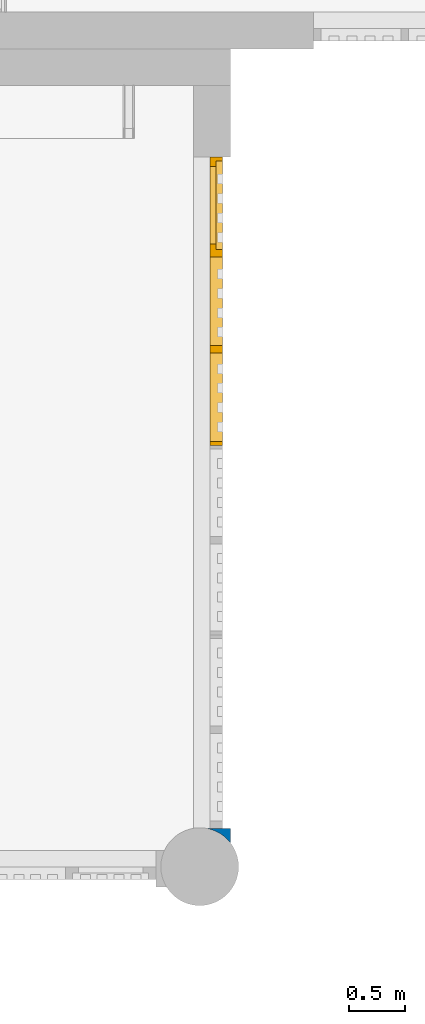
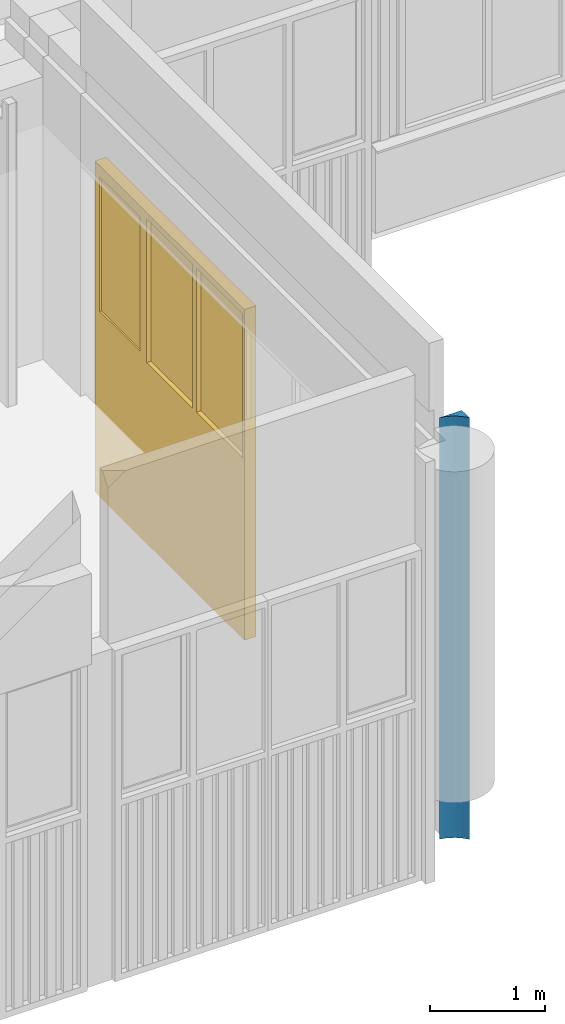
# One storey, part 55 of 117: 1 wall, 1 window, 3 openings.
"""IFC2X3 building model written with IfcOpenShell, lengths in millimetres."""

from ifc_helpers import new_model, entity, si_unit, converted_unit, derived_unit, money_unit, direction, frame, origin_with_axes, place, context, subcontext, project, spatial, open_shell, faceted_brep, surface_model, material, type_object, element, fill, save


model = new_model("IFC2X3")

# Units and contexts
model_context = context("Model", 3, precision=0.01, world=origin_with_axes(), true_north=direction((0.0, 1.0)))
body_context = subcontext(model_context, "Body", "Model", "MODEL_VIEW")
ifc_project = project(units=[si_unit("LENGTHUNIT", "METRE", prefix="MILLI"), si_unit("AREAUNIT", "SQUARE_METRE"), si_unit("VOLUMEUNIT", "CUBIC_METRE"), converted_unit("PLANEANGLEUNIT", "DEGREE", entity("IfcPlaneAngleMeasure", 0.0174532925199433), si_unit("PLANEANGLEUNIT", "RADIAN"), dimensions=[0, 0, 0, 0, 0, 0, 0]), money_unit("EUR"), converted_unit("TIMEUNIT", "Year", entity("IfcTimeMeasure", 31557600.0), si_unit("TIMEUNIT", "SECOND"), dimensions=[0, 0, 1, 0, 0, 0, 0]), si_unit("MASSUNIT", "GRAM", prefix="KILO"), si_unit("THERMODYNAMICTEMPERATUREUNIT", "DEGREE_CELSIUS"), si_unit("LUMINOUSINTENSITYUNIT", "LUMEN"), si_unit("ENERGYUNIT", "JOULE", prefix="MEGA"), derived_unit("THERMALCONDUCTANCEUNIT", [(si_unit("POWERUNIT", "WATT"), 1), (si_unit("LENGTHUNIT", "METRE"), -1), (si_unit("THERMODYNAMICTEMPERATUREUNIT", "KELVIN"), -1)]), derived_unit("SPECIFICHEATCAPACITYUNIT", [(si_unit("ENERGYUNIT", "JOULE"), 1), (si_unit("MASSUNIT", "GRAM", prefix="KILO"), -1), (si_unit("THERMODYNAMICTEMPERATUREUNIT", "KELVIN"), -1)]), derived_unit("MASSDENSITYUNIT", [(si_unit("MASSUNIT", "GRAM", prefix="KILO"), 1), (si_unit("VOLUMEUNIT", "CUBIC_METRE"), -1)])], contexts=[model_context])

# Site, building, storey
site_placement = place(None, origin_with_axes())
site = spatial("IfcSite", under=ifc_project, at=site_placement, Name="Site", CompositionType="ELEMENT")
building_placement = place(site_placement, origin_with_axes())
building = spatial("IfcBuilding", under=site, at=building_placement, Name="Naam gebouw", CompositionType="ELEMENT")
storey_placement = place(building_placement, frame((0.0, 0.0, 4150.0), z_axis=(0.0, 0.0, 1.0), x_axis=(1.0, 0.0, 0.0)))
storey = spatial("IfcBuildingStorey", under=building, at=storey_placement, Name="1e verdieping N", CompositionType="ELEMENT", Elevation=4150.0)

# Wall, openings, window
ifc_material = material(Name="ALG - CONSTRUCTIEF")
wall_type = type_object("IfcWallType", Name="ALG - CONSTRUCTIEF 330", PredefinedType="NOTDEFINED")
wall_placement = place(storey_placement, frame((32345.47026007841, 9677.805369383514, -1060.000000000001), z_axis=(0.0, 0.0, 1.0), x_axis=(0.0, -1.0, 0.0)))
wall = element("IfcWall", 1, at=wall_placement, inside=storey, type_object=wall_type, material=ifc_material, Name="_Wand-x", context=body_context, shape_type="Brep", body=[
    faceted_brep([(6031.855679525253, 1.449080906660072, 0.0), (6031.855679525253, 1.449080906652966, 760.0000000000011), (6032.170907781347, 0.0, 760.0000000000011), (6032.170907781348, 0.0, 0.0), (6031.855679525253, 0.0, 760.0000000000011), (6031.855679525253, 0.0, 0.0)], [[[0, 1, 2, 3]], [[4, 1, 0, 5]], [[1, 4, 2]], [[4, 5, 3, 2]], [[5, 0, 3]]]),
    faceted_brep([(6031.855679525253, 1.449080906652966, 1060.000000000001), (6031.855679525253, 1.449080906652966, 4260.0), (6032.170907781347, 0.0, 4260.0), (6032.170907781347, 0.0, 1060.000000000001), (6031.855679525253, 0.0, 4260.0), (6031.855679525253, 0.0, 1060.000000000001)], [[[0, 1, 2, 3]], [[4, 1, 0, 5]], [[1, 4, 2]], [[4, 5, 3, 2]], [[5, 0, 3]]]),
    faceted_brep([(6031.855679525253, 259.999999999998, 0.0), (6031.855679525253, 107.610398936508, 0.0), (6031.855679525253, 107.610398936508, 4460.000000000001), (6031.855679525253, 259.999999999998, 4460.000000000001), (6031.855679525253, 329.9999999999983, 4460.000000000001), (6031.855679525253, 329.9999999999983, 0.0), (6163.018533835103, 329.9999999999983, 0.0), (6148.380481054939, 319.0420909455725, 0.0), (6113.069386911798, 283.7309968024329, 0.0), (6083.143001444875, 243.7540260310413, 0.0), (6059.210539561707, 199.9249944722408, 0.0), (6041.759197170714, 153.1361348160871, 0.0), (6041.759197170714, 153.1361348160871, 4460.000000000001), (6059.210539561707, 199.9249944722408, 4460.000000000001), (6083.143001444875, 243.7540260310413, 4460.000000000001), (6113.069386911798, 283.7309968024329, 4460.000000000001), (6148.380481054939, 319.0420909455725, 4460.000000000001), (6163.018533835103, 329.9999999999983, 4460.000000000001)], [[[0, 1, 2, 3, 4, 5]], [[1, 0, 5, 6, 7, 8, 9, 10, 11]], [[2, 1, 11, 12]], [[3, 2, 12, 13, 14, 15, 16, 17, 4]], [[4, 17, 6, 5]], [[7, 6, 17, 16]], [[7, 16, 15, 8]], [[8, 15, 14, 9]], [[9, 14, 13, 10]], [[10, 13, 12, 11]]]),
])
opening_1_placement = place(wall_placement, frame((3438.498536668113, 0.0, 0.0), z_axis=(0.0, 0.0, 1.0), x_axis=(1.0, 0.0, 0.0)))
element("IfcOpeningElement", 2, at=opening_1_placement, cuts=wall, Name="_Merk-042", context=body_context, shape_type="Brep", body=[
    faceted_brep([(-853.2857142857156, 259.999999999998, 0.0), (-853.2857142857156, 259.999999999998, 4500.0), (-853.2857142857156, 330.999999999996, 4500.0), (-853.2857142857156, 330.999999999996, 0.0), (-853.2857142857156, -0.9999999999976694, 0.0), (-853.2857142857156, -0.9999999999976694, 4500.0), (853.2857142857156, 259.999999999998, 4500.0), (853.2857142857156, 330.999999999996, 4500.0), (853.2857142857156, -0.9999999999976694, 4500.0), (853.2857142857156, 330.999999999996, 0.0), (853.2857142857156, 259.999999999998, 0.0), (853.2857142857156, -0.9999999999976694, 0.0)], [[[0, 1, 2, 3]], [[1, 0, 4, 5]], [[6, 7, 2, 1, 5, 8]], [[7, 9, 3, 2]], [[0, 3, 9, 10, 11, 4]], [[5, 4, 11, 8]], [[6, 10, 9, 7]], [[10, 6, 8, 11]]]),
])
opening_2_placement = place(wall_placement, frame((5161.819965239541, 0.0, 0.0), z_axis=(0.0, 0.0, 1.0), x_axis=(1.0, 0.0, 0.0)))
element("IfcOpeningElement", 3, at=opening_2_placement, cuts=wall, Name="_Merk-042", context=body_context, shape_type="Brep", body=[
    faceted_brep([(-870.0357142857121, 259.999999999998, 0.0), (-870.0357142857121, 259.999999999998, 4500.0), (-870.0357142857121, 330.999999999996, 4500.0), (-870.0357142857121, 330.999999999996, 0.0), (-870.0357142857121, -0.9999999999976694, 0.0), (-870.0357142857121, -0.9999999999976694, 4500.0), (870.0357142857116, 259.999999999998, 4500.0), (870.0357142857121, 330.999999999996, 4500.0), (870.0357142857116, -0.9999999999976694, 4500.0), (870.0357142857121, 330.999999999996, 0.0), (870.0357142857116, 259.999999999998, 0.0), (870.0357142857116, -0.9999999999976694, 0.0)], [[[0, 1, 2, 3]], [[1, 0, 4, 5]], [[6, 7, 2, 1, 5, 8]], [[7, 9, 3, 2]], [[0, 3, 9, 10, 11, 4]], [[5, 4, 11, 8]], [[6, 10, 9, 7]], [[10, 6, 8, 11]]]),
])
opening_3_placement = place(wall_placement, frame((1288.534250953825, 0.0, 0.0), z_axis=(0.0, 0.0, 1.0), x_axis=(1.0, 0.0, 0.0)))
opening_3 = element("IfcOpeningElement", 4, at=opening_3_placement, cuts=wall, Name="_Merk-041", context=body_context, shape_type="Brep", body=[
    faceted_brep([(-1296.678571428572, 259.999999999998, 0.0), (-1296.678571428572, 259.999999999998, 4499.999999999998), (-1296.678571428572, 330.999999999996, 4499.999999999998), (-1296.678571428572, 330.999999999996, 0.0), (-1296.678571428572, -0.9999999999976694, 0.0), (-1296.678571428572, -0.9999999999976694, 4499.999999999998), (1296.678571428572, 259.999999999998, 4499.999999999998), (1296.678571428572, 330.999999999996, 4499.999999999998), (1296.678571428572, -0.9999999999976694, 4499.999999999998), (1296.678571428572, 330.999999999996, 0.0), (1296.678571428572, 259.999999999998, 0.0), (1296.678571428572, -0.9999999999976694, 0.0)], [[[0, 1, 2, 3]], [[1, 0, 4, 5]], [[6, 7, 2, 1, 5, 8]], [[7, 9, 3, 2]], [[0, 3, 9, 10, 11, 4]], [[5, 4, 11, 8]], [[6, 10, 9, 7]], [[10, 6, 8, 11]]]),
])
window_style = type_object("IfcWindowStyle", Name="R3 bl ol 26", ConstructionType="NOTDEFINED", OperationType="USERDEFINED", ParameterTakesPrecedence=False, Sizeable=False)
window_placement = place(opening_3_placement, frame((1296.678571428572, 0.0, 0.0), z_axis=(0.0, 0.0, 1.0), x_axis=(-1.0, 0.0, 0.0)))
window = element("IfcWindow", 5, at=window_placement, inside=storey, type_object=window_style, Name="_Merk-041", ObjectType="WINDOW", OverallHeight=3500.0, OverallWidth=2593.36, context=body_context, shape_type="SurfaceModel", body=[
    faceted_brep([(2559.857142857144, -200.0000000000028, 3432.999999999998), (2559.857142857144, -260.0000000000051, 3432.999999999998), (2593.357142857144, -260.0000000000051, 3432.999999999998), (2593.357142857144, -146.0000000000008, 3432.999999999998), (2576.857142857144, -146.0000000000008, 3432.999999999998), (2576.857142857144, -200.0000000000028, 3432.999999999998), (2559.857142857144, -200.0000000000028, 1910.000000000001), (2559.857142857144, -259.999999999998, 1910.000000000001), (2593.357142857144, -259.999999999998, 66.9999999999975), (2559.857142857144, -259.999999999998, 1843.000000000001), (2559.857142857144, -259.999999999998, 66.9999999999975), (2593.357142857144, -146.0000000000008, 66.9999999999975), (2576.857142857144, -146.0000000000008, 1893.000000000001), (2559.857142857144, -146.0000000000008, 66.9999999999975), (2559.857142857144, -146.0000000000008, 1843.000000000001), (2559.857142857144, -146.0000000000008, 1893.000000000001), (2576.857142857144, -200.0000000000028, 1893.000000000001), (2559.857142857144, -200.0000000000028, 1893.000000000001)], [[[0, 1, 2, 3, 4, 5]], [[6, 7, 1, 0]], [[8, 2, 1, 7, 9, 10]], [[11, 3, 2, 8]], [[12, 4, 3, 11, 13, 14, 15]], [[12, 16, 5, 4]], [[5, 16, 17, 6, 0]], [[17, 15, 14, 9, 7, 6]], [[14, 13, 10, 9]], [[13, 11, 8, 10]], [[15, 17, 16, 12]]]),
    faceted_brep([(1745.404761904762, -146.0000000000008, 3432.999999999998), (1695.404761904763, -146.0000000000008, 3432.999999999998), (1695.404761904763, -259.999999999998, 3432.999999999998), (1762.404761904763, -259.999999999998, 3432.999999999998), (1762.404761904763, -200.0000000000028, 3432.999999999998), (1745.404761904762, -200.0000000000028, 3432.999999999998), (1745.404761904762, -146.0000000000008, 1893.000000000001), (1762.404761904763, -146.0000000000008, 1893.000000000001), (1762.404761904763, -146.0000000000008, 1843.000000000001), (1762.404761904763, -146.0000000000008, 66.9999999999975), (1695.404761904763, -146.0000000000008, 66.9999999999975), (1695.404761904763, -146.0000000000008, 1843.000000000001), (1695.404761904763, -146.0000000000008, 1910.000000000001), (1695.404761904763, -259.999999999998, 1910.000000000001), (1695.404761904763, -259.999999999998, 1843.000000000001), (1695.404761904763, -259.999999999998, 66.9999999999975), (1762.404761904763, -259.999999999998, 66.9999999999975), (1762.404761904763, -259.999999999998, 1843.000000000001), (1762.404761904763, -259.999999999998, 1910.000000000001), (1762.404761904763, -200.0000000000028, 1910.000000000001), (1762.404761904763, -200.0000000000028, 1893.000000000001), (1745.404761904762, -200.0000000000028, 1893.000000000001)], [[[0, 1, 2, 3, 4, 5]], [[6, 7, 8, 9, 10, 11, 12, 1, 0]], [[1, 12, 13, 2]], [[14, 15, 16, 17, 18, 3, 2, 13]], [[4, 3, 18, 19]], [[19, 20, 21, 5, 4]], [[5, 21, 6, 0]], [[6, 21, 20, 7]], [[20, 19, 18, 17, 8, 7]], [[9, 8, 17, 16]], [[10, 9, 16, 15]], [[11, 10, 15, 14]], [[12, 11, 14, 13]]]),
    faceted_brep([(1762.404761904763, -200.0000000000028, 1910.000000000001), (1762.404761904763, -259.999999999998, 1910.000000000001), (2559.857142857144, -259.999999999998, 1910.000000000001), (2559.857142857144, -200.0000000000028, 1910.000000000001), (1762.404761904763, -200.0000000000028, 1893.000000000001), (1762.404761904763, -146.0000000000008, 1893.000000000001), (1762.404761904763, -146.0000000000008, 1843.000000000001), (1762.404761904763, -259.999999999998, 1843.000000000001), (2559.857142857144, -259.999999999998, 1843.000000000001), (2559.857142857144, -200.0000000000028, 1893.000000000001), (2559.857142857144, -146.0000000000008, 1843.000000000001), (2559.857142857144, -146.0000000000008, 1893.000000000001)], [[[0, 1, 2, 3]], [[4, 5, 6, 7, 1, 0]], [[7, 8, 2, 1]], [[9, 3, 2, 8, 10, 11]], [[9, 4, 0, 3]], [[5, 4, 9, 11]], [[11, 10, 6, 5]], [[6, 10, 8, 7]]]),
    faceted_brep([(1745.404761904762, -146.0000000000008, 3432.999999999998), (1695.404761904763, -146.0000000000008, 3432.999999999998), (897.9523809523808, -146.0000000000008, 3432.999999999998), (830.9523809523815, -146.0000000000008, 3432.999999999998), (33.50000000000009, -146.0000000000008, 3432.999999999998), (0.0, -146.0000000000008, 3432.999999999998), (0.0, -146.0000000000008, 3499.999999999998), (2593.357142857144, -146.0000000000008, 3499.999999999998), (2593.357142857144, -146.0000000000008, 3432.999999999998), (2576.857142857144, -146.0000000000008, 3432.999999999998), (2576.857142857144, -146.0000000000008, 3449.999999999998), (1745.404761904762, -146.0000000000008, 3449.999999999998), (1745.404761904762, -200.0000000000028, 3432.999999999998), (1762.404761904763, -200.0000000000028, 3432.999999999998), (1762.404761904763, -259.999999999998, 3432.999999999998), (1695.404761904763, -259.999999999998, 3432.999999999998), (897.9523809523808, -259.999999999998, 3432.999999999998), (830.9523809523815, -259.999999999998, 3432.999999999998), (33.50000000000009, -259.999999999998, 3432.999999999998), (0.0, -259.999999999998, 3432.999999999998), (0.0, -259.999999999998, 3499.999999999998), (2593.357142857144, -260.0000000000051, 3499.999999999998), (2593.357142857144, -260.0000000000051, 3432.999999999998), (2576.857142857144, -200.0000000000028, 3432.999999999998), (2559.857142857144, -260.0000000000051, 3432.999999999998), (2559.857142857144, -200.0000000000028, 3432.999999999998), (2576.857142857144, -200.0000000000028, 3449.999999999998), (1745.404761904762, -200.0000000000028, 3449.999999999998)], [[[0, 1, 2, 3, 4, 5, 6, 7, 8, 9, 10, 11]], [[12, 13, 14, 15, 1, 0]], [[2, 1, 15, 16]], [[3, 2, 16, 17]], [[4, 3, 17, 18]], [[5, 4, 18, 19]], [[6, 5, 19, 20]], [[7, 6, 20, 21]], [[8, 7, 21, 22]], [[23, 9, 8, 22, 24, 25]], [[9, 23, 26, 10]], [[10, 26, 27, 11]], [[11, 27, 12, 0]], [[25, 13, 12, 27, 26, 23]], [[25, 24, 14, 13]], [[16, 15, 14, 24, 22, 21, 20, 19, 18, 17]]]),
    faceted_brep([(33.50000000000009, -259.999999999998, 1843.000000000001), (33.50000000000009, -146.0000000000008, 1843.000000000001), (33.50000000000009, -146.0000000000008, 1910.000000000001), (33.50000000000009, -259.999999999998, 1910.000000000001), (33.50000000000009, -259.999999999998, 66.99999999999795), (33.50000000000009, -146.0000000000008, 66.99999999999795), (0.0, -146.0000000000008, 66.99999999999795), (0.0, -146.0000000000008, 3432.999999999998), (33.50000000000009, -146.0000000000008, 3432.999999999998), (33.50000000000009, -259.999999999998, 3432.999999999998), (0.0, -259.999999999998, 3432.999999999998), (0.0, -259.999999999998, 66.99999999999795)], [[[0, 1, 2, 3]], [[4, 5, 1, 0]], [[1, 5, 6, 7, 8, 2]], [[3, 2, 8, 9]], [[0, 3, 9, 10, 11, 4]], [[11, 6, 5, 4]], [[10, 7, 6, 11]], [[9, 8, 7, 10]]]),
    faceted_brep([(897.9523809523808, -259.999999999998, 3432.999999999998), (897.9523809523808, -146.0000000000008, 3432.999999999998), (830.9523809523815, -146.0000000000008, 3432.999999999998), (830.9523809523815, -259.999999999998, 3432.999999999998), (897.9523809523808, -259.999999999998, 1910.000000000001), (897.9523809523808, -146.0000000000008, 1910.000000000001), (897.9523809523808, -146.0000000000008, 1843.000000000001), (897.9523809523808, -146.0000000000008, 66.99999999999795), (830.9523809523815, -146.0000000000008, 66.99999999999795), (830.9523809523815, -146.0000000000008, 1843.000000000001), (830.9523809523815, -146.0000000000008, 1910.000000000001), (830.9523809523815, -259.999999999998, 1910.000000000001), (830.9523809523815, -259.999999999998, 1843.000000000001), (830.9523809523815, -259.999999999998, 66.99999999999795), (897.9523809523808, -259.999999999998, 66.99999999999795), (897.9523809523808, -259.999999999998, 1843.000000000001)], [[[0, 1, 2, 3]], [[4, 5, 1, 0]], [[1, 5, 6, 7, 8, 9, 10, 2]], [[3, 2, 10, 11]], [[0, 3, 11, 12, 13, 14, 15, 4]], [[15, 6, 5, 4]], [[14, 7, 6, 15]], [[13, 8, 7, 14]], [[12, 9, 8, 13]], [[11, 10, 9, 12]]]),
    faceted_brep([(1695.404761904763, -259.999999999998, 1843.000000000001), (1695.404761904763, -146.0000000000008, 1843.000000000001), (1695.404761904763, -146.0000000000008, 1910.000000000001), (1695.404761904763, -259.999999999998, 1910.000000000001), (897.9523809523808, -259.999999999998, 1843.000000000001), (897.9523809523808, -146.0000000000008, 1843.000000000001), (897.9523809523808, -146.0000000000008, 1910.000000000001), (897.9523809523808, -259.999999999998, 1910.000000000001)], [[[0, 1, 2, 3]], [[4, 5, 1, 0]], [[1, 5, 6, 2]], [[3, 2, 6, 7]], [[0, 3, 7, 4]], [[7, 6, 5, 4]]]),
    faceted_brep([(33.50000000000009, -259.999999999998, 1910.000000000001), (33.50000000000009, -146.0000000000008, 1910.000000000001), (33.50000000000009, -146.0000000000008, 1843.000000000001), (33.50000000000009, -259.999999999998, 1843.000000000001), (830.9523809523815, -259.999999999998, 1910.000000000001), (830.9523809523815, -146.0000000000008, 1910.000000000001), (830.9523809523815, -146.0000000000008, 1843.000000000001), (830.9523809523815, -259.999999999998, 1843.000000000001)], [[[0, 1, 2, 3]], [[4, 5, 1, 0]], [[1, 5, 6, 2]], [[3, 2, 6, 7]], [[0, 3, 7, 4]], [[7, 6, 5, 4]]]),
    faceted_brep([(33.50000000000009, -259.999999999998, 66.99999999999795), (33.50000000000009, -146.0000000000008, 66.99999999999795), (0.0, -146.0000000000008, 66.99999999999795), (0.0, -259.999999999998, 66.99999999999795), (830.9523809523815, -259.999999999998, 66.99999999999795), (830.9523809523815, -146.0000000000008, 66.99999999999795), (897.9523809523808, -146.0000000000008, 66.99999999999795), (1695.404761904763, -146.0000000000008, 66.99999999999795), (1762.404761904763, -146.0000000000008, 66.99999999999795), (2559.857142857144, -146.0000000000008, 66.99999999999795), (2593.357142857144, -146.0000000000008, 66.99999999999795), (2593.357142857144, -146.0000000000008, 0.0), (0.0, -146.0000000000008, 0.0), (0.0, -259.999999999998, 0.0), (2593.357142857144, -259.999999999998, 0.0), (2593.357142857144, -259.999999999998, 66.99999999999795), (2559.857142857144, -259.999999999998, 66.99999999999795), (1762.404761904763, -259.999999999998, 66.99999999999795), (1695.404761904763, -259.999999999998, 66.99999999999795), (897.9523809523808, -259.999999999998, 66.99999999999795)], [[[0, 1, 2, 3]], [[4, 5, 1, 0]], [[1, 5, 6, 7, 8, 9, 10, 11, 12, 2]], [[3, 2, 12, 13]], [[0, 3, 13, 14, 15, 16, 17, 18, 19, 4]], [[19, 6, 5, 4]], [[18, 7, 6, 19]], [[17, 8, 7, 18]], [[16, 9, 8, 17]], [[15, 10, 9, 16]], [[14, 11, 10, 15]], [[13, 12, 11, 14]]]),
    surface_model("IfcShellBasedSurfaceModel", [(33.50000000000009, -210.0000000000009, 1910.000000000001), (830.9523809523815, -210.0000000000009, 1910.000000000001), (830.9523809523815, -210.0000000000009, 3432.999999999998), (33.50000000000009, -210.0000000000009, 3432.999999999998)], [open_shell([[[0, 1, 2, 3]]])]),
    surface_model("IfcShellBasedSurfaceModel", [(33.50000000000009, -189.9999999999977, 1910.000000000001), (33.50000000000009, -189.9999999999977, 3432.999999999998), (830.9523809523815, -190.0000000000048, 3432.999999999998), (830.9523809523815, -189.9999999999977, 1910.000000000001)], [open_shell([[[0, 1, 2, 3]]])]),
    surface_model("IfcShellBasedSurfaceModel", [(897.9523809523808, -210.0000000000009, 1910.000000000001), (1695.404761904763, -210.0000000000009, 1910.000000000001), (1695.404761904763, -210.0000000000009, 3432.999999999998), (897.9523809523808, -210.0000000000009, 3432.999999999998)], [open_shell([[[0, 1, 2, 3]]])]),
    surface_model("IfcShellBasedSurfaceModel", [(897.9523809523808, -189.9999999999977, 1910.000000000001), (897.9523809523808, -190.0000000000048, 3432.999999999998), (1695.404761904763, -190.0000000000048, 3432.999999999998), (1695.404761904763, -189.9999999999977, 1910.000000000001)], [open_shell([[[0, 1, 2, 3]]])]),
    faceted_brep([(1812.404761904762, -200.0000000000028, 3382.999999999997), (1812.404761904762, -146.0000000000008, 3382.999999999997), (1745.404761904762, -146.0000000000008, 3382.999999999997), (1745.404761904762, -200.0000000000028, 3382.999999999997), (1812.404761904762, -200.0000000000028, 1960.000000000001), (1812.404761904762, -146.0000000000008, 1960.000000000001), (1745.404761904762, -146.0000000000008, 1960.000000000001), (1745.404761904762, -200.0000000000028, 1960.000000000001)], [[[0, 1, 2, 3]], [[4, 5, 1, 0]], [[1, 5, 6, 2]], [[3, 2, 6, 7]], [[0, 3, 7, 4]], [[7, 6, 5, 4]]]),
    faceted_brep([(2509.857142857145, -200.0000000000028, 1960.000000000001), (2509.857142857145, -146.0000000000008, 1960.000000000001), (2576.857142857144, -146.0000000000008, 1960.000000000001), (2576.857142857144, -200.0000000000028, 1960.000000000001), (2509.857142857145, -200.0000000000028, 3382.999999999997), (2509.857142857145, -146.0000000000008, 3382.999999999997), (2576.857142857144, -146.0000000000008, 3382.999999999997), (2576.857142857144, -200.0000000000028, 3382.999999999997)], [[[0, 1, 2, 3]], [[4, 5, 1, 0]], [[1, 5, 6, 2]], [[3, 2, 6, 7]], [[0, 3, 7, 4]], [[7, 6, 5, 4]]]),
    faceted_brep([(2576.857142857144, -200.0000000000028, 1893.000000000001), (2576.857142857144, -146.0000000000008, 1893.000000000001), (2576.857142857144, -146.0000000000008, 1960.000000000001), (2576.857142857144, -200.0000000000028, 1960.000000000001), (1745.404761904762, -200.0000000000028, 1893.000000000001), (1745.404761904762, -146.0000000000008, 1893.000000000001), (1745.404761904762, -146.0000000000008, 1960.000000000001), (1812.404761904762, -146.0000000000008, 1960.000000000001), (2509.857142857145, -146.0000000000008, 1960.000000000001), (2509.857142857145, -200.0000000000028, 1960.000000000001), (1812.404761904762, -200.0000000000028, 1960.000000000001), (1745.404761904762, -200.0000000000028, 1960.000000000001)], [[[0, 1, 2, 3]], [[4, 5, 1, 0]], [[1, 5, 6, 7, 8, 2]], [[3, 2, 8, 9]], [[0, 3, 9, 10, 11, 4]], [[11, 6, 5, 4]], [[10, 7, 6, 11]], [[9, 8, 7, 10]]]),
    faceted_brep([(1745.404761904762, -200.0000000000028, 3449.999999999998), (1745.404761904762, -146.0000000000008, 3449.999999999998), (1745.404761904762, -146.0000000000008, 3382.999999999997), (1745.404761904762, -200.0000000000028, 3382.999999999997), (2576.857142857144, -200.0000000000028, 3449.999999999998), (2576.857142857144, -146.0000000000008, 3449.999999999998), (2576.857142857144, -146.0000000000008, 3382.999999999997), (2509.857142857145, -146.0000000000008, 3382.999999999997), (1812.404761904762, -146.0000000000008, 3382.999999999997), (1812.404761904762, -200.0000000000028, 3382.999999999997), (2509.857142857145, -200.0000000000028, 3382.999999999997), (2576.857142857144, -200.0000000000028, 3382.999999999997)], [[[0, 1, 2, 3]], [[4, 5, 1, 0]], [[1, 5, 6, 7, 8, 2]], [[3, 2, 8, 9]], [[0, 3, 9, 10, 11, 4]], [[11, 6, 5, 4]], [[10, 7, 6, 11]], [[9, 8, 7, 10]]]),
    surface_model("IfcShellBasedSurfaceModel", [(1812.404761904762, -182.9999999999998, 1960.000000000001), (2509.857142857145, -182.9999999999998, 1960.000000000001), (2509.857142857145, -182.9999999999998, 3382.999999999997), (1812.404761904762, -182.9999999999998, 3382.999999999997)], [open_shell([[[0, 1, 2, 3]]])]),
    surface_model("IfcShellBasedSurfaceModel", [(1812.404761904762, -163.0000000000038, 1960.000000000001), (1812.404761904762, -163.0000000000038, 3382.999999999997), (2509.857142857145, -163.0000000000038, 3382.999999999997), (2509.857142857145, -163.0000000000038, 1960.000000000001)], [open_shell([[[0, 1, 2, 3]]])]),
    faceted_brep([(33.50000000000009, -200.0000000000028, 66.99999999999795), (33.50000000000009, -146.0000000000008, 66.99999999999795), (830.9523809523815, -146.0000000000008, 66.99999999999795), (830.9523809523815, -200.0000000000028, 66.99999999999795), (33.50000000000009, -200.0000000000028, 1843.000000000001), (33.50000000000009, -146.0000000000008, 1843.000000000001), (830.9523809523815, -146.0000000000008, 1843.000000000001), (830.9523809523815, -200.0000000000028, 1843.000000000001)], [[[0, 1, 2, 3]], [[4, 5, 1, 0]], [[1, 5, 6, 2]], [[3, 2, 6, 7]], [[0, 3, 7, 4]], [[7, 6, 5, 4]]]),
    faceted_brep([(897.9523809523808, -200.0000000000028, 66.99999999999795), (897.9523809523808, -146.0000000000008, 66.99999999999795), (1695.404761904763, -146.0000000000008, 66.99999999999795), (1695.404761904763, -200.0000000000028, 66.99999999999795), (897.9523809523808, -200.0000000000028, 1843.000000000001), (897.9523809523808, -146.0000000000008, 1843.000000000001), (1695.404761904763, -146.0000000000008, 1843.000000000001), (1695.404761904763, -200.0000000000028, 1843.000000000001)], [[[0, 1, 2, 3]], [[4, 5, 1, 0]], [[1, 5, 6, 2]], [[3, 2, 6, 7]], [[0, 3, 7, 4]], [[7, 6, 5, 4]]]),
    faceted_brep([(1762.404761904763, -200.0000000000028, 66.99999999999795), (1762.404761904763, -146.0000000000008, 66.99999999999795), (2559.857142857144, -146.0000000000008, 66.99999999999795), (2559.857142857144, -200.0000000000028, 66.99999999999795), (1762.404761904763, -200.0000000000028, 1843.000000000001), (1762.404761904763, -146.0000000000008, 1843.000000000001), (2559.857142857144, -146.0000000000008, 1843.000000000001), (2559.857142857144, -200.0000000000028, 1843.000000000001)], [[[0, 1, 2, 3]], [[4, 5, 1, 0]], [[1, 5, 6, 2]], [[3, 2, 6, 7]], [[0, 3, 7, 4]], [[7, 6, 5, 4]]]),
])
fill(opening_3, window)

save(model, "model.ifc")
